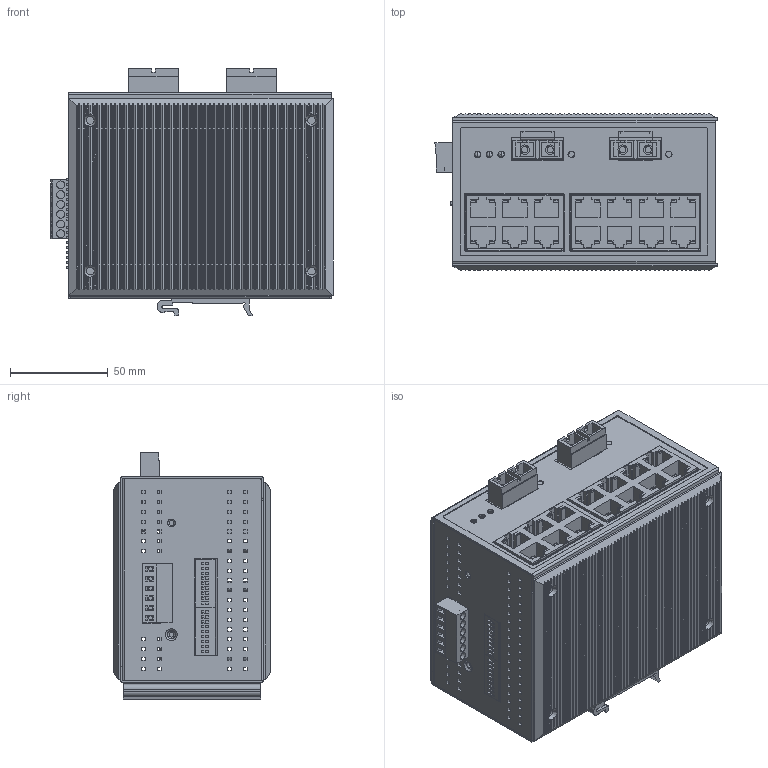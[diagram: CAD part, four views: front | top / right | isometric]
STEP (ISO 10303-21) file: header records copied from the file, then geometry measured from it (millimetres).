
FILE_DESCRIPTION((''),'2;1');
FILE_NAME('EDS-316_ALL_ASM','2010-12-15T',('Vincent_Huang'),(''),'PRO/ENGINEER BY PARAMETRIC TECHNOLOGY CORPORATION, 2004320','PRO/ENGINEER BY PARAMETRIC TECHNOLOGY CORPORATION, 2004320','');
FILE_SCHEMA(('CONFIG_CONTROL_DESIGN'));
Length unit declared in the file: millimetre
Products named in the file (27): EDS-316_PCB; 1126005082900_RJ45_E5J88_2X3_90; 1126005082600_RJ45_E5J88_2X4_90; SW_9SW_DIP90D; 1109000040700_TACKSW; HR_DIP180M_2X18; EDS-316_PCB_ASM; EDS-316_PCB_2; 1111000003000_TERMINAL_M_6P; 1160058031400_FIBER_SC3015_; 1126002218000_HR_DIP180F_2X18; 1106999996600_LED_GREEN3MM_DIP; PCB-TERMINAL_PCB-2; EDS-316_PCB_2_ASM; EDS-316_PCB_ALL_ASM; EDS-316_BOT; EDS-316_TOP; IPS-1510_RIGHT-ALMINUM; IPS-1510_LEFT-ALMINUM; 1111000003100_TERMINAL_FM_6P; DIN_RAIL-KIT2; EDS-316_M_TOP; AL; EDS-316_MM_TOP; HEAT_SINK; PAD; EDS-316_ALL_ASM
Assembly tree (33 placements, depth 4):
  EDS-316_ALL_ASM
    EDS-316_PCB_ALL_ASM
      EDS-316_PCB_ASM
        EDS-316_PCB
        1126005082900_RJ45_E5J88_2X3_90
        1126005082600_RJ45_E5J88_2X4_90
        SW_9SW_DIP90D  x2
        1109000040700_TACKSW
        HR_DIP180M_2X18
      EDS-316_PCB_2_ASM
        EDS-316_PCB_2
        1111000003000_TERMINAL_M_6P
        1160058031400_FIBER_SC3015_  x2
        1126002218000_HR_DIP180F_2X18
        1106999996600_LED_GREEN3MM_DIP  x5
        PCB-TERMINAL_PCB-2  x2
    EDS-316_BOT
    EDS-316_TOP
    IPS-1510_RIGHT-ALMINUM
    IPS-1510_LEFT-ALMINUM
    1111000003100_TERMINAL_FM_6P
    DIN_RAIL-KIT2
    EDS-316_M_TOP
    AL
    EDS-316_MM_TOP
    HEAT_SINK
    PAD
Bounding box: 144.05 x 80.18 x 126.1 mm (x, y, z)
Volume: 355739.4 mm3; surface area: 393755.5 mm2
Topology: 35 solids, 35 shells, 5234 faces, 13077 edges, 8447 vertices
Faces by surface type: plane 3672, cylinder 1444, torus 58, cone 50, bspline 10
Entity records: 140052 total; most frequent: CARTESIAN_POINT 25716, ORIENTED_EDGE 23422, DIRECTION 22923, EDGE_CURVE 11711, VECTOR 8739, LINE 8739, VERTEX_POINT 7547, AXIS2_PLACEMENT_3D 7092
